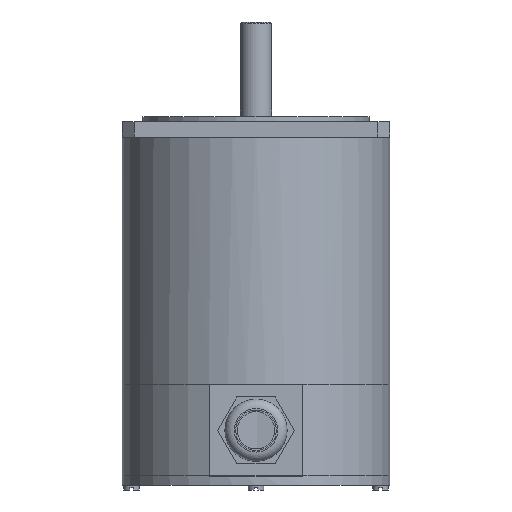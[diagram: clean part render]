
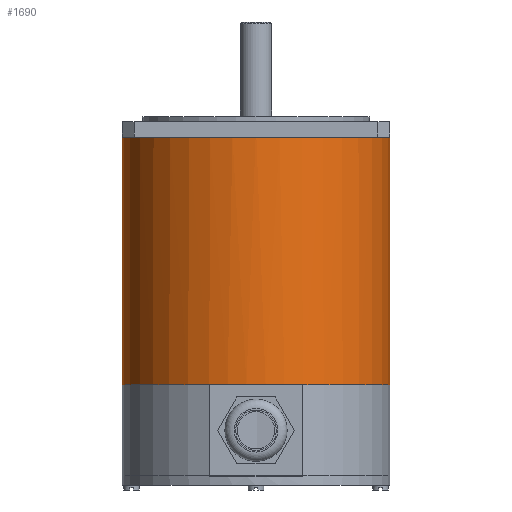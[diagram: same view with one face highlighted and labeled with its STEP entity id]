
A CAD part, front view. The second image highlights one B-rep face of the part: STEP entity #1690.
In plain terms, the highlighted cylindrical face has radius 43 mm (diameter 86 mm), a full revolution.
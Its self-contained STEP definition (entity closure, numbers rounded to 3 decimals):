
#1577=CARTESIAN_POINT('',(81.181,62.942,-60.318));
#1578=DIRECTION('',(0.0,0.0,1.0));
#1579=DIRECTION('',(-1.0,0.0,0.0));
#1580=AXIS2_PLACEMENT_3D('',#1577,#1578,#1579);
#1581=CYLINDRICAL_SURFACE('',#1580,43.0);
#1582=CARTESIAN_POINT('',(124.181,62.821,19.182));
#1583=VERTEX_POINT('',#1582);
#1584=CARTESIAN_POINT('',(124.181,62.942,19.182));
#1585=VERTEX_POINT('',#1584);
#1586=CARTESIAN_POINT('',(124.181,62.821,19.182));
#1587=DIRECTION('',(0.0,1.0,0.0));
#1588=VECTOR('',#1587,0.121);
#1589=LINE('',#1586,#1588);
#1590=EDGE_CURVE('',#1583,#1585,#1589,.T.);
#1591=ORIENTED_EDGE('',*,*,#1590,.F.);
#1592=CARTESIAN_POINT('',(81.302,19.942,19.182));
#1593=VERTEX_POINT('',#1592);
#1594=CARTESIAN_POINT('',(81.181,62.942,19.182));
#1595=DIRECTION('',(0.0,0.0,1.0));
#1596=DIRECTION('',(-1.0,0.0,0.0));
#1597=AXIS2_PLACEMENT_3D('',#1594,#1595,#1596);
#1598=CIRCLE('',#1597,43.0);
#1599=EDGE_CURVE('',#1593,#1583,#1598,.T.);
#1600=ORIENTED_EDGE('',*,*,#1599,.F.);
#1601=CARTESIAN_POINT('',(81.06,19.942,19.182));
#1602=VERTEX_POINT('',#1601);
#1603=CARTESIAN_POINT('',(81.06,19.942,19.182));
#1604=DIRECTION('',(1.0,0.0,0.0));
#1605=VECTOR('',#1604,0.242);
#1606=LINE('',#1603,#1605);
#1607=EDGE_CURVE('',#1602,#1593,#1606,.T.);
#1608=ORIENTED_EDGE('',*,*,#1607,.F.);
#1609=CARTESIAN_POINT('',(38.181,62.821,19.182));
#1610=VERTEX_POINT('',#1609);
#1611=CARTESIAN_POINT('',(81.181,62.942,19.182));
#1612=DIRECTION('',(0.0,0.0,1.0));
#1613=DIRECTION('',(-1.0,0.0,0.0));
#1614=AXIS2_PLACEMENT_3D('',#1611,#1612,#1613);
#1615=CIRCLE('',#1614,43.0);
#1616=EDGE_CURVE('',#1610,#1602,#1615,.T.);
#1617=ORIENTED_EDGE('',*,*,#1616,.F.);
#1618=CARTESIAN_POINT('',(38.181,63.063,19.182));
#1619=VERTEX_POINT('',#1618);
#1620=CARTESIAN_POINT('',(38.181,63.063,19.182));
#1621=DIRECTION('',(0.0,-1.0,0.0));
#1622=VECTOR('',#1621,0.242);
#1623=LINE('',#1620,#1622);
#1624=EDGE_CURVE('',#1619,#1610,#1623,.T.);
#1625=ORIENTED_EDGE('',*,*,#1624,.F.);
#1626=CARTESIAN_POINT('',(81.06,105.942,19.182));
#1627=VERTEX_POINT('',#1626);
#1628=CARTESIAN_POINT('',(81.181,62.942,19.182));
#1629=DIRECTION('',(0.0,0.0,1.0));
#1630=DIRECTION('',(-1.0,0.0,0.0));
#1631=AXIS2_PLACEMENT_3D('',#1628,#1629,#1630);
#1632=CIRCLE('',#1631,43.0);
#1633=EDGE_CURVE('',#1627,#1619,#1632,.T.);
#1634=ORIENTED_EDGE('',*,*,#1633,.F.);
#1635=CARTESIAN_POINT('',(81.302,105.942,19.182));
#1636=VERTEX_POINT('',#1635);
#1637=CARTESIAN_POINT('',(81.302,105.942,19.182));
#1638=DIRECTION('',(-1.0,0.0,0.0));
#1639=VECTOR('',#1638,0.242);
#1640=LINE('',#1637,#1639);
#1641=EDGE_CURVE('',#1636,#1627,#1640,.T.);
#1642=ORIENTED_EDGE('',*,*,#1641,.F.);
#1643=CARTESIAN_POINT('',(124.181,63.063,19.182));
#1644=VERTEX_POINT('',#1643);
#1645=CARTESIAN_POINT('',(81.181,62.942,19.182));
#1646=DIRECTION('',(0.0,0.0,1.0));
#1647=DIRECTION('',(-1.0,0.0,0.0));
#1648=AXIS2_PLACEMENT_3D('',#1645,#1646,#1647);
#1649=CIRCLE('',#1648,43.0);
#1650=EDGE_CURVE('',#1644,#1636,#1649,.T.);
#1651=ORIENTED_EDGE('',*,*,#1650,.F.);
#1652=CARTESIAN_POINT('',(81.181,62.942,19.182));
#1653=DIRECTION('',(0.0,0.0,-1.0));
#1654=DIRECTION('',(-1.0,0.0,0.0));
#1655=AXIS2_PLACEMENT_3D('',#1652,#1653,#1654);
#1656=CIRCLE('',#1655,43.0);
#1657=EDGE_CURVE('',#1644,#1585,#1656,.T.);
#1658=ORIENTED_EDGE('',*,*,#1657,.T.);
#1659=EDGE_LOOP('',(#1591,#1600,#1608,#1617,#1625,#1634,#1642,#1651,#1658));
#1660=FACE_OUTER_BOUND('',#1659,.T.);
#1661=CARTESIAN_POINT('',(124.181,62.942,-60.318));
#1662=VERTEX_POINT('',#1661);
#1663=CARTESIAN_POINT('',(96.214,22.656,-60.318));
#1664=VERTEX_POINT('',#1663);
#1665=CARTESIAN_POINT('',(81.181,62.942,-60.318));
#1666=DIRECTION('',(0.0,0.0,-1.0));
#1667=DIRECTION('',(-0.35,0.937,0.0));
#1668=AXIS2_PLACEMENT_3D('',#1665,#1666,#1667);
#1669=CIRCLE('',#1668,43.);
#1670=EDGE_CURVE('',#1662,#1664,#1669,.T.);
#1671=ORIENTED_EDGE('',*,*,#1670,.F.);
#1672=CARTESIAN_POINT('',(66.148,22.656,-60.318));
#1673=VERTEX_POINT('',#1672);
#1674=CARTESIAN_POINT('',(81.181,62.942,-60.318));
#1675=DIRECTION('',(0.0,0.0,-1.0));
#1676=DIRECTION('',(-0.35,0.937,0.0));
#1677=AXIS2_PLACEMENT_3D('',#1674,#1675,#1676);
#1678=CIRCLE('',#1677,43.);
#1679=EDGE_CURVE('',#1673,#1662,#1678,.T.);
#1680=ORIENTED_EDGE('',*,*,#1679,.F.);
#1681=CARTESIAN_POINT('',(81.181,62.942,-60.318));
#1682=DIRECTION('',(0.0,0.0,-1.0));
#1683=DIRECTION('',(-1.0,0.0,0.0));
#1684=AXIS2_PLACEMENT_3D('',#1681,#1682,#1683);
#1685=CIRCLE('',#1684,43.0);
#1686=EDGE_CURVE('',#1664,#1673,#1685,.T.);
#1687=ORIENTED_EDGE('',*,*,#1686,.F.);
#1688=EDGE_LOOP('',(#1671,#1680,#1687));
#1689=FACE_BOUND('',#1688,.T.);
#1690=ADVANCED_FACE('',(#1660,#1689),#1581,.T.);
